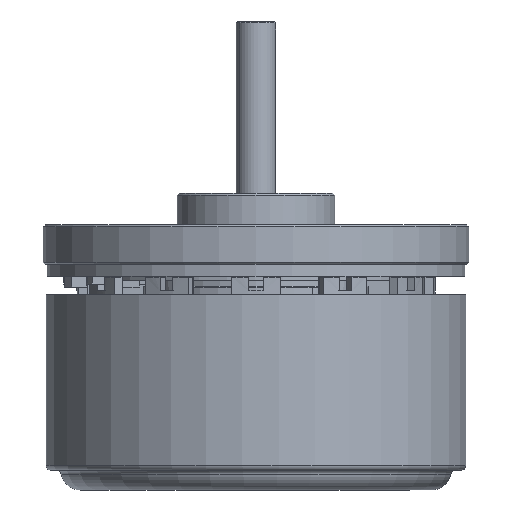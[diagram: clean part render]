
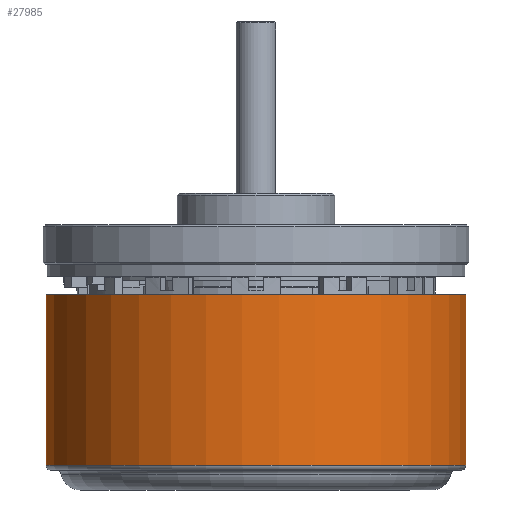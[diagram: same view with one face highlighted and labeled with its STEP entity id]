
A CAD part, front view. The second image highlights one B-rep face of the part: STEP entity #27985.
In plain terms, the highlighted cylindrical face has radius 21.35 mm (diameter 42.7 mm), a partial arc.
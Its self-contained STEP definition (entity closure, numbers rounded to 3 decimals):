
#4397 = CIRCLE ( 'NONE', #16555, 21.35 ) ;
#5986 = CARTESIAN_POINT ( 'NONE',  ( -21.35, 0., 3. ) ) ;
#6679 = ORIENTED_EDGE ( 'NONE', *, *, #40466, .F. ) ;
#7079 = CARTESIAN_POINT ( 'NONE',  ( 0., 0., 25.5 ) ) ;
#8250 = CARTESIAN_POINT ( 'NONE',  ( 21.35, 0., 3. ) ) ;
#8575 = AXIS2_PLACEMENT_3D ( 'NONE', #7079, #50007, #11427 ) ;
#10570 = CARTESIAN_POINT ( 'NONE',  ( -21.35, 0., 20.3 ) ) ;
#11427 = DIRECTION ( 'NONE',  ( -1., 0., 0. ) ) ;
#12375 = DIRECTION ( 'NONE',  ( 0., 0., -1. ) ) ;
#13471 = AXIS2_PLACEMENT_3D ( 'NONE', #23652, #53638, #27945 ) ;
#13906 = EDGE_CURVE ( 'NONE', #31337, #48549, #26954, .T. ) ;
#13944 = DIRECTION ( 'NONE',  ( 0., 0., -1. ) ) ;
#13953 = ORIENTED_EDGE ( 'NONE', *, *, #21232, .F. ) ;
#14966 = EDGE_LOOP ( 'NONE', ( #25392, #32783, #13953, #6679 ) ) ;
#15581 = VECTOR ( 'NONE', #12375, 1000. ) ;
#16555 = AXIS2_PLACEMENT_3D ( 'NONE', #22293, #52274, #26572 ) ;
#21232 = EDGE_CURVE ( 'NONE', #31094, #48549, #4397, .T. ) ;
#22293 = CARTESIAN_POINT ( 'NONE',  ( 0., 0., 3. ) ) ;
#23652 = CARTESIAN_POINT ( 'NONE',  ( 0., 0., 20.3 ) ) ;
#24438 = VECTOR ( 'NONE', #13944, 1000. ) ;
#25392 = ORIENTED_EDGE ( 'NONE', *, *, #46991, .T. ) ;
#26572 = DIRECTION ( 'NONE',  ( -1., 0., 0. ) ) ;
#26954 = LINE ( 'NONE', #42359, #15581 ) ;
#27945 = DIRECTION ( 'NONE',  ( 1., 0., 0. ) ) ;
#27985 = ADVANCED_FACE ( 'NONE', ( #37572 ), #47599, .T. ) ;
#29201 = CARTESIAN_POINT ( 'NONE',  ( 21.35, 0., 20.3 ) ) ;
#31094 = VERTEX_POINT ( 'NONE', #5986 ) ;
#31337 = VERTEX_POINT ( 'NONE', #29201 ) ;
#32783 = ORIENTED_EDGE ( 'NONE', *, *, #13906, .T. ) ;
#34287 = VERTEX_POINT ( 'NONE', #10570 ) ;
#34760 = CIRCLE ( 'NONE', #13471, 21.35 ) ;
#35334 = CARTESIAN_POINT ( 'NONE',  ( -21.35, 0., 25.5 ) ) ;
#37572 = FACE_OUTER_BOUND ( 'NONE', #14966, .T. ) ;
#40466 = EDGE_CURVE ( 'NONE', #34287, #31094, #47206, .T. ) ;
#42359 = CARTESIAN_POINT ( 'NONE',  ( 21.35, 0., 25.5 ) ) ;
#46991 = EDGE_CURVE ( 'NONE', #34287, #31337, #34760, .T. ) ;
#47206 = LINE ( 'NONE', #35334, #24438 ) ;
#47599 = CYLINDRICAL_SURFACE ( 'NONE', #8575, 21.35 ) ;
#48549 = VERTEX_POINT ( 'NONE', #8250 ) ;
#50007 = DIRECTION ( 'NONE',  ( 0., 0., -1. ) ) ;
#52274 = DIRECTION ( 'NONE',  ( 0., 0., -1. ) ) ;
#53638 = DIRECTION ( 'NONE',  ( 0., 0., -1. ) ) ;
